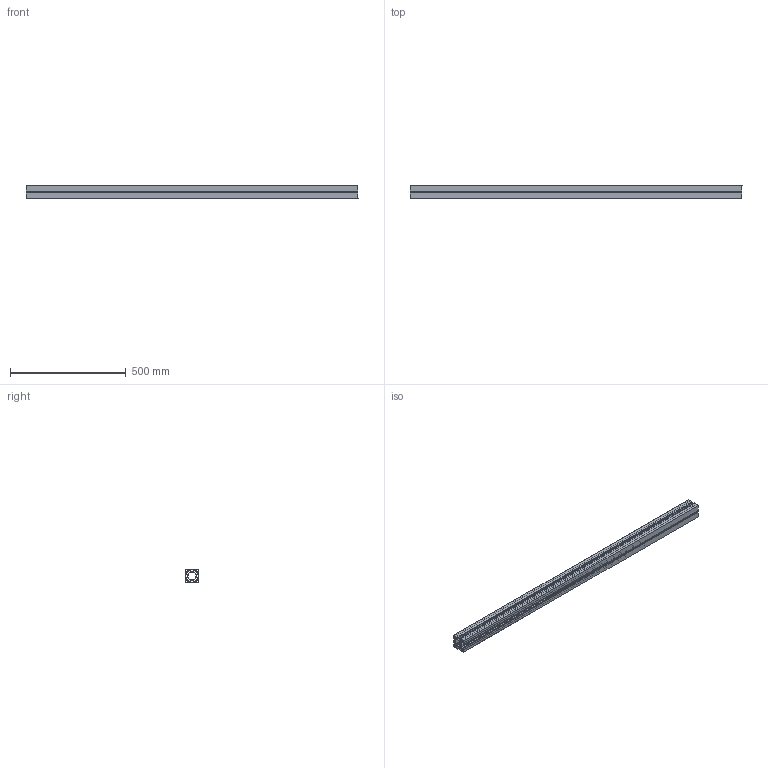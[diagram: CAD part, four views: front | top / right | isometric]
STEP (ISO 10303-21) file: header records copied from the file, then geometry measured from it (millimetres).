
FILE_DESCRIPTION(/* description */ (''),/* implementation_level */ '2;1');
FILE_NAME(/* name */ 'Pos101-Profiel 60x60-Aluminium-2st',/* time_stamp */ '2024-08-06T11:49:43+02:00',/* author */ (''),/* organization */ (''),/* preprocessor_version */ 'ST-DEVELOPER v16.5',/* originating_system */ 'HiCAD 2024 2901.2 Build 361',/* authorisation */ '');
FILE_SCHEMA (('AUTOMOTIVE_DESIGN { 1 0 10303 214 1 1 1 1 }'));
Length unit declared in the file: millimetre
Products named in the file (1): Pos101-Profiel 60x60-Aluminium-2st
Bounding box: 1433 x 60 x 60 mm (x, y, z)
Volume: 1366697.6 mm3; surface area: 1250689.5 mm2
Topology: 1 solids, 1 shells, 92 faces, 272 edges, 182 vertices
Faces by surface type: plane 58, cylinder 34
Full cylindrical faces by diameter (mm): 8 x2, 8.5 x4
Entity records: 5718 total; most frequent: CARTESIAN_POINT 536, PRESENTATION_STYLE_ASSIGNMENT 529, COLOUR_RGB 529, DRAUGHTING_PRE_DEFINED_CURVE_FONT 528, CURVE_STYLE 528, OVER_RIDING_STYLED_ITEM 528, ORIENTED_EDGE 528, DIRECTION 516
